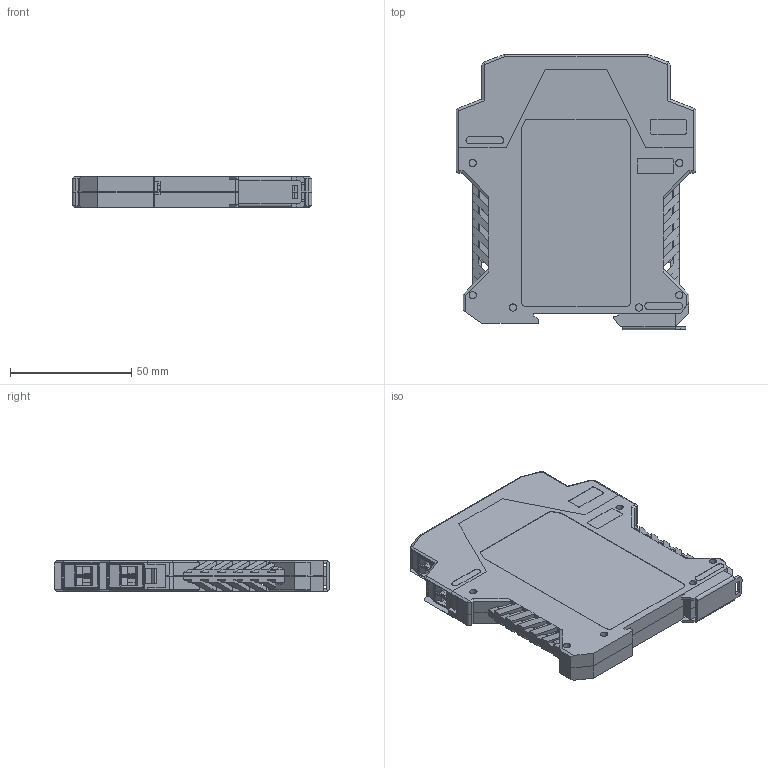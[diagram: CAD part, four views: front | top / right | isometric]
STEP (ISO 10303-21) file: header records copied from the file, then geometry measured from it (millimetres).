
FILE_DESCRIPTION(('STEP AP242'), '1');
FILE_NAME('ÁÈÇ-1-õõ_ME12_5 1', '2026-03-04T13:07:20', ('Ïîëüçîâàòåëü Windows'), (''), 'C3D Converter', 'C3D Toolkit', '');
FILE_SCHEMA(('AP242_MANAGED_MODEL_BASED_3D_ENGINEERING_MIM_LF { 1 0 10303 442 1 1 4 }'));
Length unit declared in the file: millimetre
Products named in the file (16): БИЗ-1-хх_ME12_5; Плата БИЗ МЕ 12,5_V2.step; MSTBT 2,5 2-ST - 1779835.stp; AC_MKDSN_2_5_Laengsschlitz.1.stp; KK_MSTB_2_5_HC_ST.stp; CO_MSTBT_2_5_ST.stp; AT_MSTBT_2_5_ST_5_00.stp; 2021_01_26__13-21-54-067^PhoenixContact_1 (1)_Корпус ME12,5; 2021_01_26__13-21-54-036^PhoenixContact_1 (1)_Корпус ME12,5; 2021_01_26__13-21-54-004^PhoenixContact_1 (1)_Корпус ME12,5; 2021_01_26__13-21-53-973^PhoenixContact_1 (1)_Корпус ME12,5; 2021_01_26__13-21-53-942^PhoenixContact_1 (1)_Корпус ME12,5; 2021_01_26__13-21-53-911^PhoenixContact_1 (1)_Корпус ME12,5
Assembly tree (30 placements, depth 3):
  БИЗ-1-хх_ME12_5
    Плата БИЗ МЕ 12,5_V2.step
    MSTBT 2,5 2-ST - 1779835.stp  x2
      AC_MKDSN_2_5_Laengsschlitz.1.stp
      KK_MSTB_2_5_HC_ST.stp
      CO_MSTBT_2_5_ST.stp
      AT_MSTBT_2_5_ST_5_00.stp
    AC_MKDSN_2_5_Laengsschlitz.1.stp  x4
    KK_MSTB_2_5_HC_ST.stp  x4
    CO_MSTBT_2_5_ST.stp  x4
    AT_MSTBT_2_5_ST_5_00.stp  x2
    2021_01_26__13-21-54-067^PhoenixContact_1 (1)_Корпус ME12,5
    2021_01_26__13-21-54-036^PhoenixContact_1 (1)_Корпус ME12,5
    2021_01_26__13-21-54-004^PhoenixContact_1 (1)_Корпус ME12,5
    2021_01_26__13-21-53-973^PhoenixContact_1 (1)_Корпус ME12,5
    2021_01_26__13-21-53-942^PhoenixContact_1 (1)_Корпус ME12,5
    2021_01_26__13-21-53-911^PhoenixContact_1 (1)_Корпус ME12,5
Bounding box: 99 x 113.6 x 12.6 mm (x, y, z)
Volume: 58179.8 mm3; surface area: 81987.5 mm2
Topology: 103 solids, 103 shells, 4614 faces, 12435 edges, 8202 vertices
Faces by surface type: plane 3847, cylinder 535, bspline 148, torus 56, cone 28
Full cylindrical faces by diameter (mm): 0.6 x8, 0.9 x28, 1.1 x48, 1.4 x32, 1.5 x16, 1.53 x16, 2 x6, 2.73 x8, 2.8 x8, 3 x37, 3.68 x36, 3.821 x8, 4 x10, 5 x6
Entity records: 132395 total; most frequent: CARTESIAN_POINT 26699, ORIENTED_EDGE 16548, DIRECTION 15002, EDGE_CURVE 8274, LINE 6876, VECTOR 6876, VERTEX_POINT 5632, AXIS2_PLACEMENT_3D 4063
